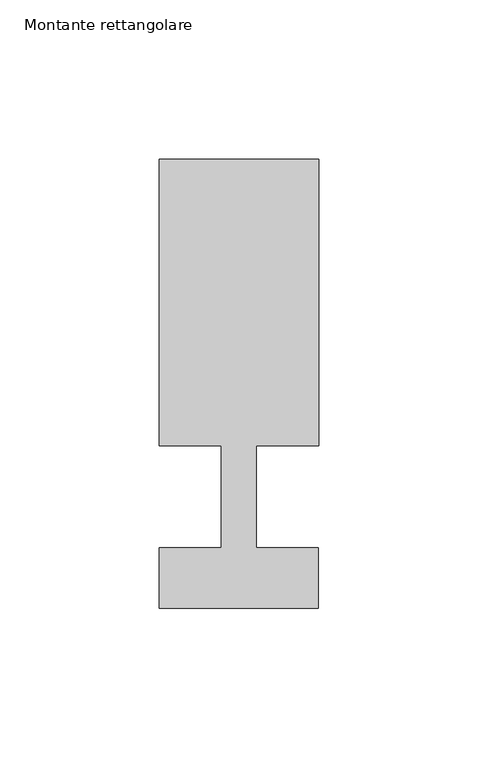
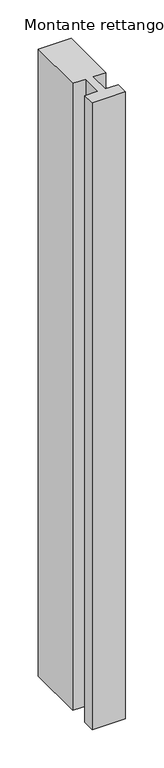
"""IFC4 building model written with IfcOpenShell, lengths in millimetres: member geometry, Montante rettangolare : Aluk_SL50_Traverso K742_vetro 32."""

from ifc_helpers import new_model, si_unit, frame, origin, place, context, project, spatial, polyline, outline, extrude, source, transform, mapped, element, save


def montante_rettangolare_d00d8c17(model_context):
    return source(origin(), model_context, "Body", "SweptSolid", [
        extrude(outline(polyline([(25.0, 106.0), (25.0, 16.0001243), (5.5, 16.0001243), (5.5, -15.9998757), (24.9874218, -15.9998757), (24.9874218, -35.0022918), (-25.026691, -35.0022918), (-25.026691, -15.9998757), (-5.5, -15.9998757), (-5.5, 16.0001243), (-25.0, 16.0001243), (-25.0, 106.0), (25.0, 106.0)])), frame((0.0, 0.0, -999.5992581), z_axis=(0.0, 0.0, 1.0), x_axis=(1.0, 0.0, 0.0)), (0.0, 0.0, 1.0), 999.5992581),
    ])


if __name__ == "__main__":
    model = new_model("IFC4")
    model_context = context("Model", 3, world=origin())
    ifc_project = project(units=[si_unit("LENGTHUNIT", "METRE", prefix="MILLI")], contexts=[model_context])
    site = spatial("IfcSite", under=ifc_project)
    building = spatial("IfcBuilding", under=site)
    placement = place(None, origin())
    montante_rettangolare_shape = montante_rettangolare_d00d8c17(model_context)
    element("IfcMember", 1, ObjectType="Montante rettangolare : Aluk_SL50_Traverso K742_vetro 32", at=placement, inside=building, context=model_context, shape_type="MappedRepresentation", body=[
        mapped(montante_rettangolare_shape, transform((0.0, 0.0, 0.0), x_axis=(1.0, 0.0, 0.0), y_axis=(0.0, 1.0, 0.0), z_axis=(0.0, 0.0, 1.0))),
    ])
    save(model, "model.ifc")
